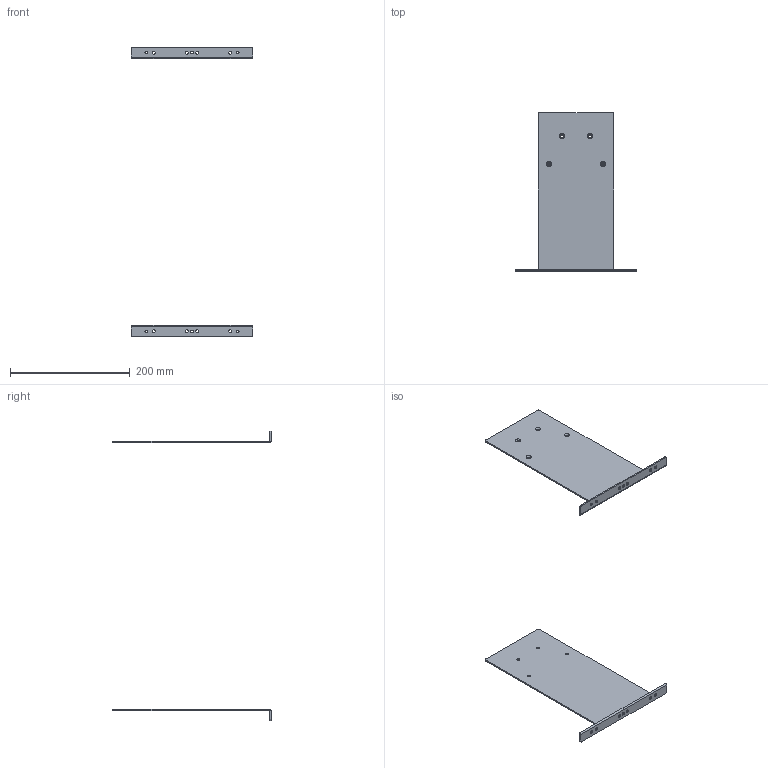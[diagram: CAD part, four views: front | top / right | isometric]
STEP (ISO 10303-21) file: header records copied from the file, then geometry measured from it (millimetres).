
FILE_DESCRIPTION(/* description */ (''),/* implementation_level */ '2;1');
FILE_NAME(/* name */ 'F:\CAD\CAD COMPLETE\web site project\Receiver Mounting Kits\561998-RevA-STP\561998-RevA-STP.stp',/* time_stamp */ '2014-12-11T11:30:51+00:00',/* author */ ('davecooper'),/* organization */ (''),/* preprocessor_version */ 'ST-DEVELOPER v15.2',/* originating_system */ 'Autodesk Inventor 2014',/* authorisation */ '');
FILE_SCHEMA (('AUTOMOTIVE_DESIGN { 1 0 10303 214 3 1 1 }'));
Length unit declared in the file: inch
Products named in the file (1): 561998-CU
Bounding box: 203.2 x 264.24 x 482.6 mm (x, y, z)
Surface area: 151680.2 mm2 (no closed solid volume)
Topology: 0 solids, 2 shells, 62 faces, 180 edges, 122 vertices
Faces by surface type: plane 28, cylinder 20, cone 14
Full cylindrical faces by diameter (mm): 5.105 x8
Entity records: 1952 total; most frequent: DIRECTION 330, CARTESIAN_POINT 299, ORIENTED_EDGE 272, EDGE_CURVE 136, AXIS2_PLACEMENT_3D 131, EDGE_LOOP 128, VERTEX_POINT 100, FACE_BOUND 70
